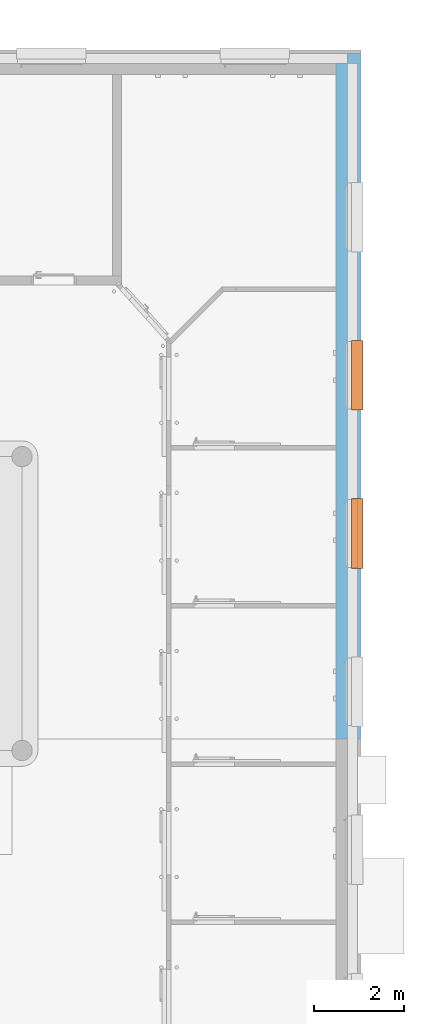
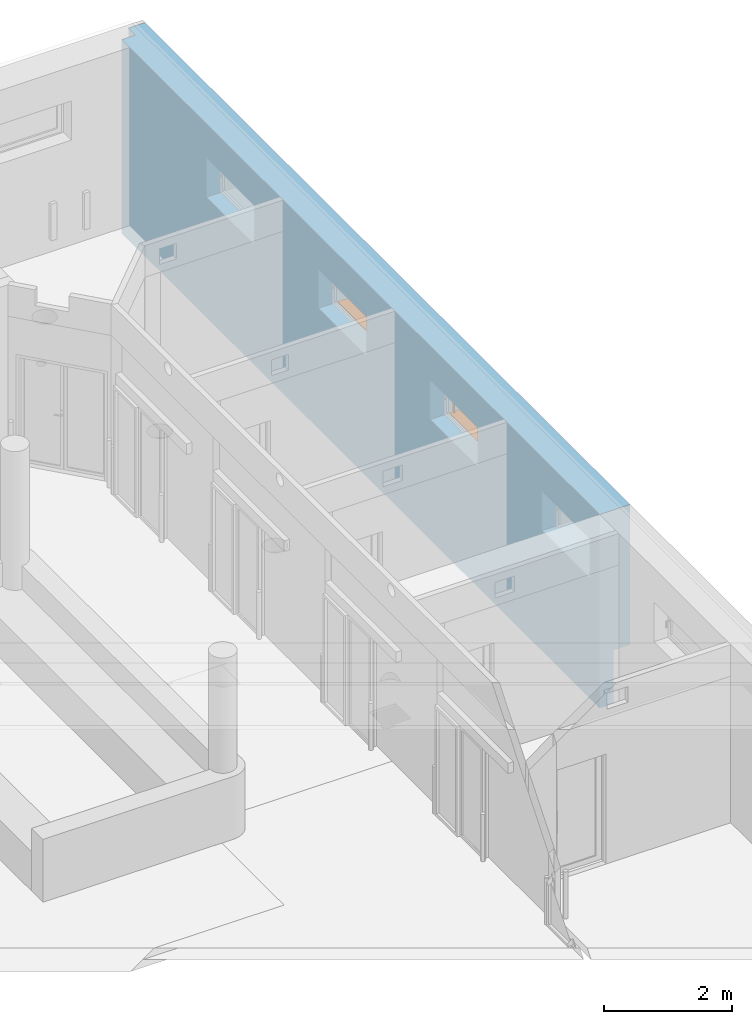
# One storey, part 118 of 140: 3 proxies, 4 openings, plus 1 element that does not belong to this part.
"""IFC4 building model written with IfcOpenShell, lengths in metres."""

from ifc_helpers import new_model, entity, si_unit, converted_unit, derived_unit, frame, origin, origin_with_axes, place, context, subcontext, project, spatial, polyline, outline, extrude, clip, bounded_halfspace, faceted_brep, source, transform, mapped, material, layer, layer_set, layer_usage, element, fill, save


model = new_model("IFC4")

# Units and contexts
model_context = context("Model", 3, precision=1e-05, world=origin())
body_context = subcontext(model_context, "Body", "Model", "MODEL_VIEW")
ifc_project = project(units=[si_unit("LENGTHUNIT", "METRE"), si_unit("AREAUNIT", "SQUARE_METRE"), si_unit("VOLUMEUNIT", "CUBIC_METRE"), si_unit("MASSUNIT", "GRAM", prefix="KILO"), converted_unit("PLANEANGLEUNIT", "DEGREE", entity("IfcPlaneAngleMeasure", 0.0174532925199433), si_unit("PLANEANGLEUNIT", "RADIAN"), dimensions=[0, 0, 0, 0, 0, 0, 0]), derived_unit("THERMALTRANSMITTANCEUNIT", [(si_unit("POWERUNIT", "WATT"), 1), (si_unit("THERMODYNAMICTEMPERATUREUNIT", "KELVIN"), -1), (si_unit("LENGTHUNIT", "METRE"), -2)]), derived_unit("VOLUMETRICFLOWRATEUNIT", [(si_unit("LENGTHUNIT", "METRE"), 3), (converted_unit("TIMEUNIT", "hour", entity("IfcTimeMeasure", 3600.0), si_unit("TIMEUNIT", "SECOND"), dimensions=[0, 0, 1, 0, 0, 0, 0]), -1), (si_unit("LENGTHUNIT", "METRE"), -1)])], contexts=[model_context])

# Site, building, storey
site_placement = place(None, origin())
site = spatial("IfcSite", under=ifc_project, at=site_placement, Name="3. ASŘ", CompositionType="ELEMENT")
building_placement = place(site_placement, origin())
building = spatial("IfcBuilding", under=site, at=building_placement, Name="Pavilon C", CompositionType="ELEMENT")
storey_placement = place(building_placement, origin())
storey = spatial("IfcBuildingStorey", under=building, at=storey_placement, Name="Půdorys 1.NP", CompositionType="ELEMENT", Elevation=0.0)

# Wall, openings, proxies
ifc_material_1 = material(Name="ZELEZOBETONOVÁ KCE")
ifc_layer_1 = layer(ifc_material_1, 0.25)
ifc_material_2 = material(Name="MINERÁLNÍ VATA")
ifc_layer_2 = layer(ifc_material_2, 0.3)
ifc_layer_set = layer_set([ifc_layer_1, ifc_layer_2])
ifc_layer_usage = layer_usage(ifc_layer_set, "AXIS2", "POSITIVE", 0.0)
wall_placement = place(storey_placement, frame((63.55, 32.55, -0.3), z_axis=(0.0, 0.0, 1.0), x_axis=(0.0, -1.0, 0.0)))
wall = element("IfcWall", 1, at=wall_placement, inside=storey, material=ifc_layer_usage, Name="ZELEZOBETONOVÁ KCE", context=body_context, shape_type="Clipping", body=[
    clip(extrude(outline(polyline([(-15.17, 0.55), (-15.17, 0.25), (-14.95, 0.25), (-14.95, 0.0), (0.0, 0.0), (0.0, 0.55), (-15.17, 0.55)])), frame((14.95, 0.0, 0.0), z_axis=(0.0, 0.0, 1.0), x_axis=(1.0, 0.0, 0.0)), (0.0, 0.0, 1.0), 3.7), bounded_halfspace(frame((5.892, 0.37, 1.02), z_axis=(0.0, 0.0, 1.0), x_axis=(0.0, -1.0, 0.0)), True, origin_with_axes(), polyline([(-0.22, 0.55), (-0.22, 0.25), (0.0, 0.249999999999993), (14.95, 0.249999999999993), (14.95, 0.55), (-0.22, 0.55)]))),
])
opening_1_placement = place(wall_placement, frame((11.15, 0.25, 2.3), z_axis=(0.0, -1.0, 0.0), x_axis=(0.0, 0.0, 1.0)))
opening_1 = element("IfcOpeningElement", 2, at=opening_1_placement, cuts=wall, Name="Okenní otvor", ObjectType="Opening", context=body_context, shape_type="SweptSolid", body=[
    extrude(outline(polyline([(0.0, 1.5), (0.75, 1.5), (0.75, 0.0), (0.0, 0.0), (0.0, 1.5)])), origin_with_axes(), (0.0, 0.0, 1.0), 0.25),
    extrude(outline(polyline([(0.0, 1.5), (0.75, 1.5), (0.75, 0.0), (0.0, 0.0), (0.0, 1.5)])), frame((0.0, 0.0, -0.3), z_axis=(0.0, 0.0, 1.0), x_axis=(1.0, 0.0, 0.0)), (0.0, 0.0, 1.0), 0.3),
])
opening_2_placement = place(wall_placement, frame((7.65000000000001, 0.25, 2.3), z_axis=(0.0, -1.0, 0.0), x_axis=(0.0, 0.0, 1.0)))
opening_2 = element("IfcOpeningElement", 3, at=opening_2_placement, cuts=wall, Name="Okenní otvor", ObjectType="Opening", context=body_context, shape_type="SweptSolid", body=[
    extrude(outline(polyline([(0.0, 1.5), (0.75, 1.5), (0.75, 0.0), (0.0, 0.0), (0.0, 1.5)])), origin_with_axes(), (0.0, 0.0, 1.0), 0.25),
    extrude(outline(polyline([(0.0, 1.5), (0.75, 1.5), (0.75, 0.0), (0.0, 0.0), (0.0, 1.5)])), frame((0.0, 0.0, -0.3), z_axis=(0.0, 0.0, 1.0), x_axis=(1.0, 0.0, 0.0)), (0.0, 0.0, 1.0), 0.3),
])
opening_3_placement = place(wall_placement, frame((4.15000000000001, 0.25, 2.3), z_axis=(0.0, -1.0, 0.0), x_axis=(0.0, 0.0, 1.0)))
element("IfcOpeningElement", 4, at=opening_3_placement, cuts=wall, Name="Okenní otvor", ObjectType="Opening", context=body_context, shape_type="SweptSolid", body=[
    extrude(outline(polyline([(0.0, 1.5), (0.75, 1.5), (0.75, 0.0), (0.0, 0.0), (0.0, 1.5)])), origin_with_axes(), (0.0, 0.0, 1.0), 0.25),
    extrude(outline(polyline([(0.0, 1.5), (0.75, 1.5), (0.75, 0.0), (0.0, 0.0), (0.0, 1.5)])), frame((0.0, 0.0, -0.3), z_axis=(0.0, 0.0, 1.0), x_axis=(1.0, 0.0, 0.0)), (0.0, 0.0, 1.0), 0.3),
])
opening_4_placement = place(wall_placement, frame((14.65, 0.25, 2.3), z_axis=(0.0, -1.0, 0.0), x_axis=(0.0, 0.0, 1.0)))
element("IfcOpeningElement", 5, at=opening_4_placement, cuts=wall, Name="Okenní otvor", ObjectType="Opening", context=body_context, shape_type="SweptSolid", body=[
    extrude(outline(polyline([(0.0, 1.5), (0.75, 1.5), (0.75, 0.0), (0.0, 0.0), (0.0, 1.5)])), origin_with_axes(), (0.0, 0.0, 1.0), 0.25),
    extrude(outline(polyline([(0.0, 1.5), (0.75, 1.5), (0.75, 0.0), (0.0, 0.0), (0.0, 1.5)])), frame((0.0, 0.0, -0.3), z_axis=(0.0, 0.0, 1.0), x_axis=(1.0, 0.0, 0.0)), (0.0, 0.0, 1.0), 0.3),
])
ifc_material_3 = material(Name="HLINÍKOVÝ PLECH ELOXOVANÝ")
shared_shape_1 = source(origin_with_axes(), body_context, "Body", "Brep", [
    faceted_brep([(-7.27595761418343e-15, -0.299999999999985, 0.0), (-7.27595761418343e-15, -0.0919999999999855, 0.0), (-7.27595761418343e-15, -0.0919999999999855, 0.005), (-7.27595761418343e-15, -0.299999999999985, 0.005), (1.49999999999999, -0.299999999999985, 0.0), (1.49999999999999, -0.299999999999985, 0.005), (1.49999999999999, -0.0919999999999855, 0.005), (1.49999999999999, -0.0919999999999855, 0.0), (-0.0200000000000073, -0.299999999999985, 0.0), (-0.0200000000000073, -0.334999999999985, 0.0), (1.51999999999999, -0.334999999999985, 0.0), (1.51999999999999, -0.299999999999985, 0.0), (1.51999999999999, -0.299999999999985, 0.005), (1.51999999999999, -0.339999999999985, 0.005), (-0.0200000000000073, -0.339999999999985, 0.005), (-0.0200000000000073, -0.299999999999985, 0.005), (-0.0200000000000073, -0.339999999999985, -0.025), (-0.0200000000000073, -0.334999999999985, -0.025), (1.51999999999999, -0.334999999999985, -0.025), (1.51999999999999, -0.339999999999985, -0.025)], [[[0, 1, 2, 3]], [[4, 5, 6, 7]], [[1, 0, 8, 9, 10, 11, 4, 7]], [[2, 1, 7, 6]], [[3, 2, 6, 5, 12, 13, 14, 15]], [[8, 15, 14, 16, 17, 9]], [[11, 10, 18, 19, 13, 12]], [[15, 8, 0, 3]], [[5, 4, 11, 12]], [[16, 14, 13, 19]], [[17, 16, 19, 18]], [[9, 17, 18, 10]]], orient=[[False], [False], [False], [False], [False], [False], [False], [False], [False], [False], [False], [False]]),
    faceted_brep([(-0.0200000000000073, -0.299999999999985, 0.0), (-0.0200000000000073, -0.0919999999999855, 0.0), (-0.0200000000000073, -0.0919999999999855, 0.005), (-0.0200000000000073, -0.299999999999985, 0.005), (-7.27595761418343e-15, -0.299999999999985, 0.0), (-7.27595761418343e-15, -0.299999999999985, 0.005), (-7.27595761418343e-15, -0.0919999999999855, 0.005), (-7.27595761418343e-15, -0.0919999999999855, 0.0)], [[[0, 1, 2, 3]], [[4, 5, 6, 7]], [[1, 0, 4, 7]], [[2, 1, 7, 6]], [[3, 2, 6, 5]], [[0, 3, 5, 4]]], orient=[[False], [False], [False], [False], [False], [False]]),
    faceted_brep([(1.49999999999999, -0.299999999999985, 0.0), (1.49999999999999, -0.0919999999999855, 0.0), (1.49999999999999, -0.0919999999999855, 0.005), (1.49999999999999, -0.299999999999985, 0.005), (1.51999999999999, -0.299999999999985, 0.0), (1.51999999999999, -0.299999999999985, 0.005), (1.51999999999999, -0.0919999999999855, 0.005), (1.51999999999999, -0.0919999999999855, 0.0)], [[[0, 1, 2, 3]], [[4, 5, 6, 7]], [[1, 0, 4, 7]], [[2, 1, 7, 6]], [[3, 2, 6, 5]], [[0, 3, 5, 4]]], orient=[[False], [False], [False], [False], [False], [False]]),
])
proxy_1_placement = place(opening_1_placement, frame((0.0, 0.0, 0.0), z_axis=(1.0, 0.0, 0.0), x_axis=(0.0, 1.0, 0.0)))
proxy_1 = element("IfcBuildingElementProxy", 6, at=proxy_1_placement, inside=storey, material=ifc_material_3, Name="Parapet vnější", context=body_context, shape_type="MappedRepresentation", body=[
    mapped(shared_shape_1, transform((0.0, 0.0, 0.0), x_axis=(1.0, 0.0, 0.0), y_axis=(0.0, 1.0, 0.0), z_axis=(0.0, 0.0, 1.0), scale=1.0)),
])
fill(opening_1, proxy_1)
shared_shape_2 = source(origin_with_axes(), body_context, "Body", "Brep", [
    faceted_brep([(1.49999999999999, -0.231999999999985, 0.75), (1.49999999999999, -0.231999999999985, 0.95), (1.49999999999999, -0.0919999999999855, 0.95), (1.49999999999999, -0.0919999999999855, 0.75), (1.49999999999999, -0.0939999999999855, 0.75), (1.49999999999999, -0.0939999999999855, 0.948), (1.49999999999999, -0.229999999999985, 0.948), (1.49999999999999, -0.229999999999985, 0.75), (-7.27595761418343e-15, -0.229999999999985, 0.75), (-7.27595761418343e-15, -0.229999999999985, 0.948), (-7.27595761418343e-15, -0.0939999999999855, 0.948), (-7.27595761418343e-15, -0.0939999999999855, 0.75), (-7.27595761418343e-15, -0.0919999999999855, 0.75), (-7.27595761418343e-15, -0.0919999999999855, 0.95), (-7.27595761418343e-15, -0.231999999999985, 0.95), (-7.27595761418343e-15, -0.231999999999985, 0.75)], [[[0, 1, 2, 3, 4, 5, 6, 7]], [[8, 9, 10, 11, 12, 13, 14, 15]], [[7, 8, 15, 0]], [[6, 9, 8, 7]], [[5, 10, 9, 6]], [[4, 11, 10, 5]], [[3, 12, 11, 4]], [[2, 13, 12, 3]], [[1, 14, 13, 2]], [[0, 15, 14, 1]]], orient=[[False], [False], [False], [False], [False], [False], [False], [False], [False], [False]]),
    faceted_brep([(1.49999999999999, -0.229999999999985, 0.75), (1.49999999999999, -0.229999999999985, 0.948), (1.49999999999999, -0.0939999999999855, 0.948), (1.49999999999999, -0.0939999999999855, 0.75), (1.49799999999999, -0.0939999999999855, 0.75), (1.49799999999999, -0.0939999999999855, 0.948), (1.49799999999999, -0.229999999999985, 0.948), (1.49799999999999, -0.229999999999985, 0.75)], [[[0, 1, 2, 3]], [[4, 5, 6, 7]], [[3, 4, 7, 0]], [[2, 5, 4, 3]], [[1, 6, 5, 2]], [[0, 7, 6, 1]]], orient=[[False], [False], [False], [False], [False], [False]]),
    faceted_brep([(0.00199999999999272, -0.229999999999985, 0.75), (0.00199999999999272, -0.229999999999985, 0.948), (0.00199999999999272, -0.0939999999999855, 0.948), (0.00199999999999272, -0.0939999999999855, 0.75), (-7.27595761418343e-15, -0.0939999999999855, 0.75), (-7.27595761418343e-15, -0.0939999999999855, 0.948), (-7.27595761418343e-15, -0.229999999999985, 0.948), (-7.27595761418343e-15, -0.229999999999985, 0.75)], [[[0, 1, 2, 3]], [[4, 5, 6, 7]], [[3, 4, 7, 0]], [[2, 5, 4, 3]], [[1, 6, 5, 2]], [[0, 7, 6, 1]]], orient=[[False], [False], [False], [False], [False], [False]]),
    faceted_brep([(1.49799999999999, -0.151999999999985, 0.0), (1.45799999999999, -0.151999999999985, 0.0), (1.45799999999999, -0.171999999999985, 0.0), (1.49799999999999, -0.171999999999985, 0.0), (1.49799999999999, -0.171999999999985, 0.769), (1.45799999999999, -0.171999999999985, 0.769), (1.45799999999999, -0.151999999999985, 0.769), (1.49799999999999, -0.151999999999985, 0.769)], [[[0, 1, 2, 3]], [[4, 5, 6, 7]], [[3, 4, 7, 0]], [[2, 5, 4, 3]], [[1, 6, 5, 2]], [[0, 7, 6, 1]]], orient=[[False], [False], [False], [False], [False], [False]]),
    faceted_brep([(0.0419999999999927, -0.151999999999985, 0.0), (0.00199999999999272, -0.151999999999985, 0.0), (0.00199999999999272, -0.171999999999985, 0.0), (0.0419999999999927, -0.171999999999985, 0.0), (0.0419999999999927, -0.171999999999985, 0.769), (0.00199999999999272, -0.171999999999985, 0.769), (0.00199999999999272, -0.151999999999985, 0.769), (0.0419999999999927, -0.151999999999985, 0.769)], [[[0, 1, 2, 3]], [[4, 5, 6, 7]], [[3, 4, 7, 0]], [[2, 5, 4, 3]], [[1, 6, 5, 2]], [[0, 7, 6, 1]]], orient=[[False], [False], [False], [False], [False], [False]]),
    faceted_brep([(1.45799999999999, -0.121999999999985, 0.6021), (1.45799999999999, -0.121999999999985, 0.5871), (1.45799999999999, -0.201999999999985, 0.5871), (1.45799999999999, -0.201999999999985, 0.6021), (0.0419999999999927, -0.201999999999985, 0.6021), (0.0419999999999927, -0.201999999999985, 0.5871), (0.0419999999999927, -0.121999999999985, 0.5871), (0.0419999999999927, -0.121999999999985, 0.6021)], [[[0, 1, 2, 3]], [[4, 5, 6, 7]], [[3, 4, 7, 0]], [[2, 5, 4, 3]], [[1, 6, 5, 2]], [[0, 7, 6, 1]]], orient=[[False], [False], [False], [False], [False], [False]]),
    faceted_brep([(1.45799999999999, -0.121999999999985, 0.6031), (1.45799999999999, -0.121999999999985, 0.6021), (1.45799999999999, -0.201999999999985, 0.6021), (1.45799999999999, -0.201999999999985, 0.6031), (0.0419999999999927, -0.201999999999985, 0.6031), (0.0419999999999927, -0.201999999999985, 0.6021), (0.0419999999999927, -0.121999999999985, 0.6021), (0.0419999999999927, -0.121999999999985, 0.6031)], [[[0, 1, 2, 3]], [[4, 5, 6, 7]], [[3, 4, 7, 0]], [[2, 5, 4, 3]], [[1, 6, 5, 2]], [[0, 7, 6, 1]]], orient=[[False], [False], [False], [False], [False], [False]]),
    faceted_brep([(1.45799999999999, -0.121999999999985, 0.6041), (1.45799999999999, -0.121999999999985, 0.6031), (1.45799999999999, -0.201999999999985, 0.6031), (1.45799999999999, -0.201999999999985, 0.6041), (0.0419999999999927, -0.201999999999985, 0.6041), (0.0419999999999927, -0.201999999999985, 0.6031), (0.0419999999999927, -0.121999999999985, 0.6031), (0.0419999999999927, -0.121999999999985, 0.6041)], [[[0, 1, 2, 3]], [[4, 5, 6, 7]], [[3, 4, 7, 0]], [[2, 5, 4, 3]], [[1, 6, 5, 2]], [[0, 7, 6, 1]]], orient=[[False], [False], [False], [False], [False], [False]]),
    faceted_brep([(1.45799999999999, -0.121999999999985, 0.6051), (1.45799999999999, -0.121999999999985, 0.6041), (1.45799999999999, -0.201999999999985, 0.6041), (1.45799999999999, -0.201999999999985, 0.6051), (0.0419999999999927, -0.201999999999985, 0.6051), (0.0419999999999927, -0.201999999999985, 0.6041), (0.0419999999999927, -0.121999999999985, 0.6041), (0.0419999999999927, -0.121999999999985, 0.6051)], [[[0, 1, 2, 3]], [[4, 5, 6, 7]], [[3, 4, 7, 0]], [[2, 5, 4, 3]], [[1, 6, 5, 2]], [[0, 7, 6, 1]]], orient=[[False], [False], [False], [False], [False], [False]]),
    faceted_brep([(1.45799999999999, -0.121999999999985, 0.6061), (1.45799999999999, -0.121999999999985, 0.6051), (1.45799999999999, -0.201999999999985, 0.6051), (1.45799999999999, -0.201999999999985, 0.6061), (0.0419999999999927, -0.201999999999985, 0.6061), (0.0419999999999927, -0.201999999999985, 0.6051), (0.0419999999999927, -0.121999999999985, 0.6051), (0.0419999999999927, -0.121999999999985, 0.6061)], [[[0, 1, 2, 3]], [[4, 5, 6, 7]], [[3, 4, 7, 0]], [[2, 5, 4, 3]], [[1, 6, 5, 2]], [[0, 7, 6, 1]]], orient=[[False], [False], [False], [False], [False], [False]]),
    faceted_brep([(1.45799999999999, -0.121999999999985, 0.6071), (1.45799999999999, -0.121999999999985, 0.6061), (1.45799999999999, -0.201999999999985, 0.6061), (1.45799999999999, -0.201999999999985, 0.6071), (0.0419999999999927, -0.201999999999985, 0.6071), (0.0419999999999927, -0.201999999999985, 0.6061), (0.0419999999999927, -0.121999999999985, 0.6061), (0.0419999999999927, -0.121999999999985, 0.6071)], [[[0, 1, 2, 3]], [[4, 5, 6, 7]], [[3, 4, 7, 0]], [[2, 5, 4, 3]], [[1, 6, 5, 2]], [[0, 7, 6, 1]]], orient=[[False], [False], [False], [False], [False], [False]]),
    faceted_brep([(1.45799999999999, -0.121999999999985, 0.6081), (1.45799999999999, -0.121999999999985, 0.6071), (1.45799999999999, -0.201999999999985, 0.6071), (1.45799999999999, -0.201999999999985, 0.6081), (0.0419999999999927, -0.201999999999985, 0.6081), (0.0419999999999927, -0.201999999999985, 0.6071), (0.0419999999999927, -0.121999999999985, 0.6071), (0.0419999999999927, -0.121999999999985, 0.6081)], [[[0, 1, 2, 3]], [[4, 5, 6, 7]], [[3, 4, 7, 0]], [[2, 5, 4, 3]], [[1, 6, 5, 2]], [[0, 7, 6, 1]]], orient=[[False], [False], [False], [False], [False], [False]]),
    faceted_brep([(1.45799999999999, -0.121999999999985, 0.6091), (1.45799999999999, -0.121999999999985, 0.6081), (1.45799999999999, -0.201999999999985, 0.6081), (1.45799999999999, -0.201999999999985, 0.6091), (0.0419999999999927, -0.201999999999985, 0.6091), (0.0419999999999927, -0.201999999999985, 0.6081), (0.0419999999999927, -0.121999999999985, 0.6081), (0.0419999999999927, -0.121999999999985, 0.6091)], [[[0, 1, 2, 3]], [[4, 5, 6, 7]], [[3, 4, 7, 0]], [[2, 5, 4, 3]], [[1, 6, 5, 2]], [[0, 7, 6, 1]]], orient=[[False], [False], [False], [False], [False], [False]]),
    faceted_brep([(1.45799999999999, -0.121999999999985, 0.6101), (1.45799999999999, -0.121999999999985, 0.6091), (1.45799999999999, -0.201999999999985, 0.6091), (1.45799999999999, -0.201999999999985, 0.6101), (0.0419999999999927, -0.201999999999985, 0.6101), (0.0419999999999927, -0.201999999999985, 0.6091), (0.0419999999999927, -0.121999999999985, 0.6091), (0.0419999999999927, -0.121999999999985, 0.6101)], [[[0, 1, 2, 3]], [[4, 5, 6, 7]], [[3, 4, 7, 0]], [[2, 5, 4, 3]], [[1, 6, 5, 2]], [[0, 7, 6, 1]]], orient=[[False], [False], [False], [False], [False], [False]]),
    faceted_brep([(1.45799999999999, -0.121999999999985, 0.6111), (1.45799999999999, -0.121999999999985, 0.6101), (1.45799999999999, -0.201999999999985, 0.6101), (1.45799999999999, -0.201999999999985, 0.6111), (0.0419999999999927, -0.201999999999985, 0.6111), (0.0419999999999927, -0.201999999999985, 0.6101), (0.0419999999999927, -0.121999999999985, 0.6101), (0.0419999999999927, -0.121999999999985, 0.6111)], [[[0, 1, 2, 3]], [[4, 5, 6, 7]], [[3, 4, 7, 0]], [[2, 5, 4, 3]], [[1, 6, 5, 2]], [[0, 7, 6, 1]]], orient=[[False], [False], [False], [False], [False], [False]]),
    faceted_brep([(1.45799999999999, -0.121999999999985, 0.6121), (1.45799999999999, -0.121999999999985, 0.6111), (1.45799999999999, -0.201999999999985, 0.6111), (1.45799999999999, -0.201999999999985, 0.6121), (0.0419999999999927, -0.201999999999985, 0.6121), (0.0419999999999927, -0.201999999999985, 0.6111), (0.0419999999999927, -0.121999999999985, 0.6111), (0.0419999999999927, -0.121999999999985, 0.6121)], [[[0, 1, 2, 3]], [[4, 5, 6, 7]], [[3, 4, 7, 0]], [[2, 5, 4, 3]], [[1, 6, 5, 2]], [[0, 7, 6, 1]]], orient=[[False], [False], [False], [False], [False], [False]]),
    faceted_brep([(1.45799999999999, -0.121999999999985, 0.6131), (1.45799999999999, -0.121999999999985, 0.6121), (1.45799999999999, -0.201999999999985, 0.6121), (1.45799999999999, -0.201999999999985, 0.6131), (0.0419999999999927, -0.201999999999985, 0.6131), (0.0419999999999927, -0.201999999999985, 0.6121), (0.0419999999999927, -0.121999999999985, 0.6121), (0.0419999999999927, -0.121999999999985, 0.6131)], [[[0, 1, 2, 3]], [[4, 5, 6, 7]], [[3, 4, 7, 0]], [[2, 5, 4, 3]], [[1, 6, 5, 2]], [[0, 7, 6, 1]]], orient=[[False], [False], [False], [False], [False], [False]]),
    faceted_brep([(1.45799999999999, -0.121999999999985, 0.6141), (1.45799999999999, -0.121999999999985, 0.6131), (1.45799999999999, -0.201999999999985, 0.6131), (1.45799999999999, -0.201999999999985, 0.6141), (0.0419999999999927, -0.201999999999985, 0.6141), (0.0419999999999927, -0.201999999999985, 0.6131), (0.0419999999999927, -0.121999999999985, 0.6131), (0.0419999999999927, -0.121999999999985, 0.6141)], [[[0, 1, 2, 3]], [[4, 5, 6, 7]], [[3, 4, 7, 0]], [[2, 5, 4, 3]], [[1, 6, 5, 2]], [[0, 7, 6, 1]]], orient=[[False], [False], [False], [False], [False], [False]]),
    faceted_brep([(1.45799999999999, -0.121999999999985, 0.6151), (1.45799999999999, -0.121999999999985, 0.6141), (1.45799999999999, -0.201999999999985, 0.6141), (1.45799999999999, -0.201999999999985, 0.6151), (0.0419999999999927, -0.201999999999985, 0.6151), (0.0419999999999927, -0.201999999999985, 0.6141), (0.0419999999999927, -0.121999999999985, 0.6141), (0.0419999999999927, -0.121999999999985, 0.6151)], [[[0, 1, 2, 3]], [[4, 5, 6, 7]], [[3, 4, 7, 0]], [[2, 5, 4, 3]], [[1, 6, 5, 2]], [[0, 7, 6, 1]]], orient=[[False], [False], [False], [False], [False], [False]]),
    faceted_brep([(1.45799999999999, -0.121999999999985, 0.6161), (1.45799999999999, -0.121999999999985, 0.6151), (1.45799999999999, -0.201999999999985, 0.6151), (1.45799999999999, -0.201999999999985, 0.6161), (0.0419999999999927, -0.201999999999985, 0.6161), (0.0419999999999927, -0.201999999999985, 0.6151), (0.0419999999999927, -0.121999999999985, 0.6151), (0.0419999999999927, -0.121999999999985, 0.6161)], [[[0, 1, 2, 3]], [[4, 5, 6, 7]], [[3, 4, 7, 0]], [[2, 5, 4, 3]], [[1, 6, 5, 2]], [[0, 7, 6, 1]]], orient=[[False], [False], [False], [False], [False], [False]]),
    faceted_brep([(1.45799999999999, -0.123299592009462, 0.645125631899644), (1.45799999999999, -0.123058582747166, 0.644155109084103), (1.45799999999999, -0.200700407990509, 0.624874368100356), (1.45799999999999, -0.200941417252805, 0.625844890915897), (0.0419999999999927, -0.200941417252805, 0.625844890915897), (0.0419999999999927, -0.200700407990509, 0.624874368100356), (0.0419999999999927, -0.123058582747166, 0.644155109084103), (0.0419999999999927, -0.123299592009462, 0.645125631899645)], [[[0, 1, 2, 3]], [[4, 5, 6, 7]], [[3, 4, 7, 0]], [[2, 5, 4, 3]], [[1, 6, 5, 2]], [[0, 7, 6, 1]]], orient=[[False], [False], [False], [False], [False], [False]]),
    faceted_brep([(1.45799999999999, -0.127608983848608, 0.700433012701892), (1.45799999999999, -0.127108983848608, 0.699566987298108), (1.45799999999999, -0.196391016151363, 0.659566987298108), (1.45799999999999, -0.196891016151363, 0.660433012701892), (0.0419999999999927, -0.196891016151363, 0.660433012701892), (0.0419999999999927, -0.196391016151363, 0.659566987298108), (0.0419999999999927, -0.127108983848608, 0.699566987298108), (0.0419999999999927, -0.127608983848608, 0.700433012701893)], [[[0, 1, 2, 3]], [[4, 5, 6, 7]], [[3, 4, 7, 0]], [[2, 5, 4, 3]], [[1, 6, 5, 2]], [[0, 7, 6, 1]]], orient=[[False], [False], [False], [False], [False], [False]]),
    faceted_brep([(1.45799999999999, -0.127608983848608, 0.745433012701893), (1.45799999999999, -0.127108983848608, 0.744566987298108), (1.45799999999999, -0.196391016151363, 0.704566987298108), (1.45799999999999, -0.196891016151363, 0.705433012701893), (0.0419999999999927, -0.196891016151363, 0.705433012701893), (0.0419999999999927, -0.196391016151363, 0.704566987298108), (0.0419999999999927, -0.127108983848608, 0.744566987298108), (0.0419999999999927, -0.127608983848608, 0.745433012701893)], [[[0, 1, 2, 3]], [[4, 5, 6, 7]], [[3, 4, 7, 0]], [[2, 5, 4, 3]], [[1, 6, 5, 2]], [[0, 7, 6, 1]]], orient=[[False], [False], [False], [False], [False], [False]]),
])
proxy_2_placement = place(opening_1_placement, frame((0.0, 0.0, 0.0), z_axis=(1.0, 0.0, 0.0), x_axis=(0.0, 1.0, 0.0)))
proxy_2 = element("IfcBuildingElementProxy", 7, at=proxy_2_placement, inside=storey, Name="Žaluzie", context=body_context, shape_type="MappedRepresentation", body=[
    mapped(shared_shape_2, transform((0.0, 0.0, 0.0), x_axis=(1.0, 0.0, 0.0), y_axis=(0.0, 1.0, 0.0), z_axis=(0.0, 0.0, 1.0), scale=1.0)),
])
fill(opening_1, proxy_2)
ifc_material_4 = material(Name="HLINÍKOVÝ PLECH ELOXOVANÝ")
shared_shape_3 = source(origin_with_axes(), body_context, "Body", "Brep", [
    faceted_brep([(-7.27595761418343e-15, -0.299999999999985, 0.0), (-7.27595761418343e-15, -0.0919999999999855, 0.0), (-7.27595761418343e-15, -0.0919999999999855, 0.005), (-7.27595761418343e-15, -0.299999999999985, 0.005), (1.49999999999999, -0.299999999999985, 0.0), (1.49999999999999, -0.299999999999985, 0.005), (1.49999999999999, -0.0919999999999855, 0.005), (1.49999999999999, -0.0919999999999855, 0.0), (-0.0200000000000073, -0.299999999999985, 0.0), (-0.0200000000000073, -0.334999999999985, 0.0), (1.51999999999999, -0.334999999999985, 0.0), (1.51999999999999, -0.299999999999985, 0.0), (1.51999999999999, -0.299999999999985, 0.005), (1.51999999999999, -0.339999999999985, 0.005), (-0.0200000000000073, -0.339999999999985, 0.005), (-0.0200000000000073, -0.299999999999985, 0.005), (-0.0200000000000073, -0.339999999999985, -0.025), (-0.0200000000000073, -0.334999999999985, -0.025), (1.51999999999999, -0.334999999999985, -0.025), (1.51999999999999, -0.339999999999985, -0.025)], [[[0, 1, 2, 3]], [[4, 5, 6, 7]], [[1, 0, 8, 9, 10, 11, 4, 7]], [[2, 1, 7, 6]], [[3, 2, 6, 5, 12, 13, 14, 15]], [[8, 15, 14, 16, 17, 9]], [[11, 10, 18, 19, 13, 12]], [[15, 8, 0, 3]], [[5, 4, 11, 12]], [[16, 14, 13, 19]], [[17, 16, 19, 18]], [[9, 17, 18, 10]]], orient=[[False], [False], [False], [False], [False], [False], [False], [False], [False], [False], [False], [False]]),
    faceted_brep([(-0.0200000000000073, -0.299999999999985, 0.0), (-0.0200000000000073, -0.0919999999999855, 0.0), (-0.0200000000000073, -0.0919999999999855, 0.005), (-0.0200000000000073, -0.299999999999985, 0.005), (-7.27595761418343e-15, -0.299999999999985, 0.0), (-7.27595761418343e-15, -0.299999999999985, 0.005), (-7.27595761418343e-15, -0.0919999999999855, 0.005), (-7.27595761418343e-15, -0.0919999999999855, 0.0)], [[[0, 1, 2, 3]], [[4, 5, 6, 7]], [[1, 0, 4, 7]], [[2, 1, 7, 6]], [[3, 2, 6, 5]], [[0, 3, 5, 4]]], orient=[[False], [False], [False], [False], [False], [False]]),
    faceted_brep([(1.49999999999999, -0.299999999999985, 0.0), (1.49999999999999, -0.0919999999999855, 0.0), (1.49999999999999, -0.0919999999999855, 0.005), (1.49999999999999, -0.299999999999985, 0.005), (1.51999999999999, -0.299999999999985, 0.0), (1.51999999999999, -0.299999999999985, 0.005), (1.51999999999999, -0.0919999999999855, 0.005), (1.51999999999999, -0.0919999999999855, 0.0)], [[[0, 1, 2, 3]], [[4, 5, 6, 7]], [[1, 0, 4, 7]], [[2, 1, 7, 6]], [[3, 2, 6, 5]], [[0, 3, 5, 4]]], orient=[[False], [False], [False], [False], [False], [False]]),
])
proxy_3_placement = place(opening_2_placement, frame((0.0, 0.0, 0.0), z_axis=(1.0, 0.0, 0.0), x_axis=(0.0, 1.0, 0.0)))
proxy_3 = element("IfcBuildingElementProxy", 8, at=proxy_3_placement, inside=storey, material=ifc_material_4, Name="Parapet vnější", context=body_context, shape_type="MappedRepresentation", body=[
    mapped(shared_shape_3, transform((0.0, 0.0, 0.0), x_axis=(1.0, 0.0, 0.0), y_axis=(0.0, 1.0, 0.0), z_axis=(0.0, 0.0, 1.0), scale=1.0)),
])
fill(opening_2, proxy_3)

save(model, "model.ifc")
